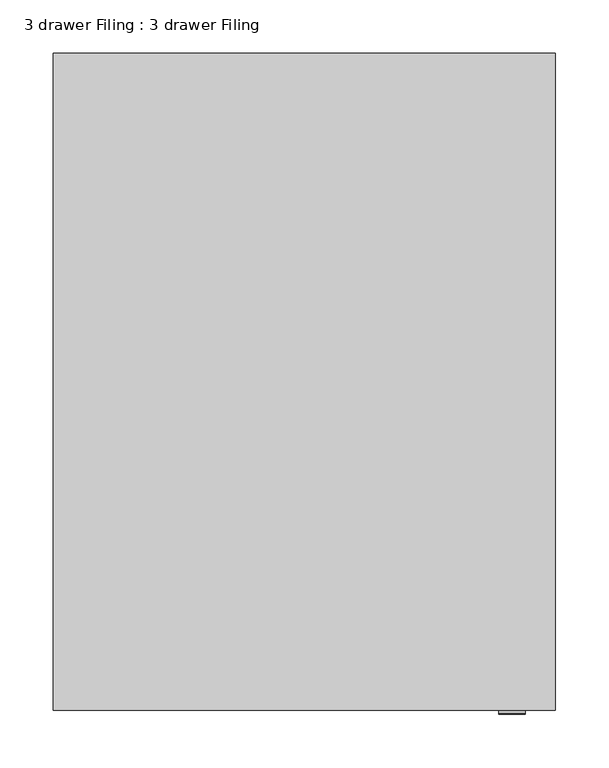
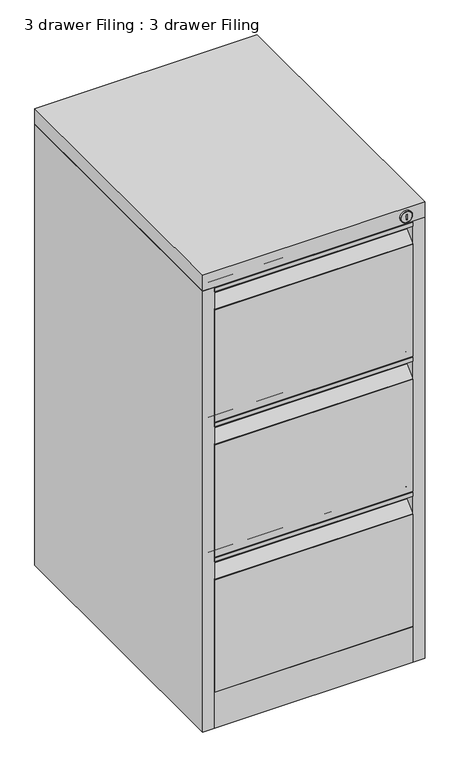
"""IFC4 building model written with IfcOpenShell, lengths in millimetres: furniture geometry, 3 drawer Filing : 3 drawer Filing."""

from ifc_helpers import new_model, si_unit, point, frame, frame_2d, origin, origin_with_axes, place, context, project, spatial, polyline, circle_curve, ellipse_curve, trimmed, segment, composite_curve, outline, extrude, source, transform, mapped, element, save
from ifc_brep_helpers import plane_surface, cylinder_surface, revolved_surface, advanced_brep


def furniture_3_drawer_filing_3_drawer_filing_0942cf7e(model_context):
    return source(origin(), model_context, "Body", "SolidModel", [
        extrude(outline(composite_curve([segment(polyline([(-282.5, 984.6666667), (-282.5, 956.0400279)]), True, "CONTINUOUS"), segment(trimmed(circle_curve(frame_2d((-285.6021897, 956.0400279)), 3.1021897), [point((-282.5, 956.0400279))], [point((-283.5167258, 953.7434171))], False, "CARTESIAN"), True, "CONTINUOUS"), segment(polyline([(-283.5167258, 953.7434171), (-304.8097129, 934.4080756)]), True, "CONTINUOUS"), segment(trimmed(circle_curve(frame_2d((-303.3938261, 932.8488345)), 2.1061739), [point((-304.8097129, 934.4080756))], [point((-305.5, 932.8488345))], True, "CARTESIAN"), True, "CONTINUOUS"), segment(polyline([(-305.5, 932.8488345), (-305.5, 685.3333333), (-282.5, 685.3333333), (-282.5, 683.3333333), (-307.5, 683.3333333), (-307.5, 933.8605616)]), True, "CONTINUOUS"), segment(trimmed(circle_curve(frame_2d((-305.6791457, 933.8605616)), 1.8208543), [point((-307.5, 933.8605616))], [point((-306.9032249, 935.2085752))], False, "CARTESIAN"), True, "CONTINUOUS"), segment(polyline([(-306.9032249, 935.2085752), (-285.0662702, 955.0378726)]), True, "CONTINUOUS"), segment(trimmed(circle_curve(frame_2d((-286.227779, 956.3169808)), 1.727779), [point((-285.0662702, 955.0378726))], [point((-284.5, 956.3169808))], True, "CARTESIAN"), True, "CONTINUOUS"), segment(polyline([(-284.5, 956.3169808), (-284.5, 980.6291286)]), True, "CONTINUOUS"), segment(trimmed(circle_curve(frame_2d((-286.5375381, 980.6291286)), 2.0375381), [point((-284.5, 980.6291286))], [point((-286.5375381, 982.6666667))], True, "CARTESIAN"), True, "CONTINUOUS"), segment(polyline([(-286.5375381, 982.6666667), (-305.5, 982.6666667), (-305.5, 974.6666667), (-307.5, 974.6666667), (-307.5, 982.8061215)]), True, "CONTINUOUS"), segment(trimmed(circle_curve(frame_2d((-305.6394549, 982.8061215)), 1.8605451), [point((-307.5, 982.8061215))], [point((-305.6394549, 984.6666667))], False, "CARTESIAN"), True, "CONTINUOUS"), segment(polyline([(-305.6394549, 984.6666667), (-282.5, 984.6666667)]), True, "CONTINUOUS")], self_intersect=False)), frame((-210.0, 0.0, 0.0), z_axis=(1.0, 0.0, 0.0), x_axis=(0.0, 1.0, 0.0)), (0.0, 0.0, 1.0), 420.0),
        extrude(outline(composite_curve([segment(polyline([(-282.5, 683.0), (-282.5, 654.3733613)]), True, "CONTINUOUS"), segment(trimmed(circle_curve(frame_2d((-285.6021897, 654.3733613)), 3.1021897), [point((-282.5, 654.3733613))], [point((-283.5167258, 652.0767504))], False, "CARTESIAN"), True, "CONTINUOUS"), segment(polyline([(-283.5167258, 652.0767504), (-304.8097129, 632.741409)]), True, "CONTINUOUS"), segment(trimmed(circle_curve(frame_2d((-303.3938261, 631.1821678)), 2.1061739), [point((-304.8097129, 632.741409))], [point((-305.5, 631.1821678))], True, "CARTESIAN"), True, "CONTINUOUS"), segment(polyline([(-305.5, 631.1821678), (-305.5, 383.6666667), (-282.5, 383.6666667), (-282.5, 381.6666667), (-307.5, 381.6666667), (-307.5, 632.193895)]), True, "CONTINUOUS"), segment(trimmed(circle_curve(frame_2d((-305.6791457, 632.193895)), 1.8208543), [point((-307.5, 632.193895))], [point((-306.9032249, 633.5419085))], False, "CARTESIAN"), True, "CONTINUOUS"), segment(polyline([(-306.9032249, 633.5419085), (-285.0662702, 653.371206)]), True, "CONTINUOUS"), segment(trimmed(circle_curve(frame_2d((-286.227779, 654.6503141)), 1.727779), [point((-285.0662702, 653.371206))], [point((-284.5, 654.6503141))], True, "CARTESIAN"), True, "CONTINUOUS"), segment(polyline([(-284.5, 654.6503141), (-284.5, 678.9624619)]), True, "CONTINUOUS"), segment(trimmed(circle_curve(frame_2d((-286.5375381, 678.9624619)), 2.0375381), [point((-284.5, 678.9624619))], [point((-286.5375381, 681.0))], True, "CARTESIAN"), True, "CONTINUOUS"), segment(polyline([(-286.5375381, 681.0), (-305.5, 681.0), (-305.5, 673.0), (-307.5, 673.0), (-307.5, 681.1394549)]), True, "CONTINUOUS"), segment(trimmed(circle_curve(frame_2d((-305.6394549, 681.1394549)), 1.8605451), [point((-307.5, 681.1394549))], [point((-305.6394549, 683.0))], False, "CARTESIAN"), True, "CONTINUOUS"), segment(polyline([(-305.6394549, 683.0), (-282.5, 683.0)]), True, "CONTINUOUS")], self_intersect=False)), frame((-210.0, 0.0, 0.0), z_axis=(1.0, 0.0, 0.0), x_axis=(0.0, 1.0, 0.0)), (0.0, 0.0, 1.0), 420.0),
        extrude(outline(composite_curve([segment(polyline([(-282.5, 381.3333333), (-282.5, 352.7066946)]), True, "CONTINUOUS"), segment(trimmed(circle_curve(frame_2d((-285.6021897, 352.7066946)), 3.1021897), [point((-282.5, 352.7066946))], [point((-283.5167258, 350.4100838))], False, "CARTESIAN"), True, "CONTINUOUS"), segment(polyline([(-283.5167258, 350.4100838), (-304.8097129, 331.0747423)]), True, "CONTINUOUS"), segment(trimmed(circle_curve(frame_2d((-303.3938261, 329.5155012)), 2.1061739), [point((-304.8097129, 331.0747423))], [point((-305.5, 329.5155012))], True, "CARTESIAN"), True, "CONTINUOUS"), segment(polyline([(-305.5, 329.5155012), (-305.5, 82.0), (-282.5, 82.0), (-282.5, 80.0), (-307.5, 80.0), (-307.5, 330.5272283)]), True, "CONTINUOUS"), segment(trimmed(circle_curve(frame_2d((-305.6791457, 330.5272283)), 1.8208543), [point((-307.5, 330.5272283))], [point((-306.9032249, 331.8752418))], False, "CARTESIAN"), True, "CONTINUOUS"), segment(polyline([(-306.9032249, 331.8752418), (-285.0662702, 351.7045393)]), True, "CONTINUOUS"), segment(trimmed(circle_curve(frame_2d((-286.227779, 352.9836474)), 1.727779), [point((-285.0662702, 351.7045393))], [point((-284.5, 352.9836474))], True, "CARTESIAN"), True, "CONTINUOUS"), segment(polyline([(-284.5, 352.9836474), (-284.5, 377.2957952)]), True, "CONTINUOUS"), segment(trimmed(circle_curve(frame_2d((-286.5375381, 377.2957952)), 2.0375381), [point((-284.5, 377.2957952))], [point((-286.5375381, 379.3333333))], True, "CARTESIAN"), True, "CONTINUOUS"), segment(polyline([(-286.5375381, 379.3333333), (-305.5, 379.3333333), (-305.5, 371.3333333), (-307.5, 371.3333333), (-307.5, 379.4727882)]), True, "CONTINUOUS"), segment(trimmed(circle_curve(frame_2d((-305.6394549, 379.4727882)), 1.8605451), [point((-307.5, 379.4727882))], [point((-305.6394549, 381.3333333))], False, "CARTESIAN"), True, "CONTINUOUS"), segment(polyline([(-305.6394549, 381.3333333), (-282.5, 381.3333333)]), True, "CONTINUOUS")], self_intersect=False)), frame((-210.0, 0.0, 0.0), z_axis=(1.0, 0.0, 0.0), x_axis=(0.0, 1.0, 0.0)), (0.0, 0.0, 1.0), 420.0),
        extrude(outline(polyline([(195.5273848, -307.5), (193.5273848, -307.5), (193.5273848, -207.5), (195.5273848, -207.5), (195.5273848, -307.5)])), frame((0.0, 0.0, 996.6206655), z_axis=(0.0, 0.0, 1.0), x_axis=(1.0, 0.0, 0.0)), (0.0, 0.0, 1.0), 12.0),
        advanced_brep(
        [(182.9473365, -311.5, 1002.5526635), (206.0526635, -311.5, 1002.5526635), (195.5273848, -311.5, 1008.6206655), (195.5273848, -311.5, 996.6206655), (193.5273848, -311.5, 996.6206655), (193.5273848, -311.5, 1008.6206655), (181.9473365, -307.5, 1002.5526635), (207.0526635, -307.5, 1002.5526635), (195.5273848, -307.5, 1008.6206655), (193.5273848, -307.5, 1008.6206655), (193.5273848, -307.5, 996.6206655), (195.5273848, -307.5, 996.6206655), (207.0526635, -310.5, 1002.5526635), (181.9473365, -310.5, 1002.5526635)],
        [
            (0, 1, circle_curve(frame((194.5, -311.5, 1002.5526635), z_axis=(0.0, -1.0, 0.0), x_axis=(1.0, 0.0, 0.0)), 11.5526635)),
            (1, 0, circle_curve(frame((194.5, -311.5, 1002.5526635), z_axis=(0.0, -1.0, 0.0), x_axis=(-1.0, 0.0, 0.0)), 11.5526635)),
            (2, 3),
            (3, 4),
            (4, 5),
            (5, 2),
            (6, 7, circle_curve(frame((194.5, -307.5, 1002.5526635), z_axis=(0.0, 1.0, 0.0), x_axis=(1.0, 0.0, 0.0)), 12.5526635)),
            (7, 6, circle_curve(frame((194.5, -307.5, 1002.5526635), z_axis=(0.0, 1.0, 0.0), x_axis=(1.0, 0.0, 0.0)), 12.5526635)),
            (8, 9),
            (9, 10),
            (10, 11),
            (11, 8),
            (7, 12),
            (12, 13, circle_curve(frame((194.5, -310.5, 1002.5526635), z_axis=(0.0, 1.0, 0.0), x_axis=(1.0, 0.0, 0.0)), 12.5526635)),
            (13, 6),
            (13, 12, circle_curve(frame((194.5, -310.5, 1002.5526635), z_axis=(0.0, 1.0, 0.0), x_axis=(1.0, 0.0, 0.0)), 12.5526635)),
            (2, 8),
            (11, 3),
            (10, 4),
            (9, 5),
            (0, 13, circle_curve(frame((182.9473365, -310.5, 1002.5526635), z_axis=(0.0, 0.0, -1.0), x_axis=(-1.0, 0.0, 0.0)), 1.0)),
            (12, 1, circle_curve(frame((206.0526635, -310.5, 1002.5526635), z_axis=(0.0, 0.0, -1.0), x_axis=(1.0, 0.0, 0.0)), 1.0)),
        ],
        [
            plane_surface(frame((207.0526635, -311.5, 1002.5526635), z_axis=(0.0, -1.0, 0.0), x_axis=(0.0, 0.0, 1.0))),
            plane_surface(frame((207.0526635, -307.5, 1002.5526635), z_axis=(0.0, 1.0, 0.0), x_axis=(0.0, 0.0, -1.0))),
            cylinder_surface(frame((194.5, -307.5, 1002.5526635), z_axis=(0.0, -1.0, 0.0), x_axis=(1.0, 0.0, 0.0)), 12.5526635),
            plane_surface(frame((195.5273848, -311.5, 1008.6206655), z_axis=(-1.0, 0.0, 0.0), x_axis=(0.0, 1.0, 0.0))),
            plane_surface(frame((195.5273848, -311.5, 996.6206655), z_axis=(0.0, 0.0, 1.0), x_axis=(0.0, 1.0, 0.0))),
            plane_surface(frame((193.5273848, -311.5, 996.6206655), z_axis=(1.0, 0.0, 0.0), x_axis=(0.0, 1.0, 0.0))),
            plane_surface(frame((193.5273848, -311.5, 1008.6206655), z_axis=(0.0, 0.0, -1.0), x_axis=(0.0, 1.0, 0.0))),
            revolved_surface(trimmed(ellipse_curve(frame((206.0526635, -310.5, 1002.5526635), z_axis=(0.0, 0.0, 1.0), x_axis=(1.0, 0.0, 0.0)), 1.0, 1.0), [point((206.0526635, -311.5, 1002.5526635))], [point((207.0526635, -310.5, 1002.5526635))], True, "CARTESIAN"), (194.5, -311.5, 1002.5526635), (0.0, 1.0, 0.0)),
            revolved_surface(trimmed(ellipse_curve(frame((182.9473365, -310.5, 1002.5526635), z_axis=(0.0, 0.0, -1.0), x_axis=(-1.0, 0.0, 0.0)), 1.0, 1.0), [point((182.9473365, -311.5, 1002.5526635))], [point((181.9473365, -310.5, 1002.5526635))], True, "CARTESIAN"), (194.5, -311.5, 1002.5526635), (0.0, 1.0, 0.0)),
        ],
        [
            (0, [[1, 2], [3, 4, 5, 6]]),
            (1, [[7, 8], [9, 10, 11, 12]]),
            (2, [[-8, 13, 14, 15]]),
            (2, [[-7, -15, 16, -13]]),
            (3, [[-3, 17, -12, 18]]),
            (4, [[-4, -18, -11, 19]]),
            (5, [[-5, -19, -10, 20]]),
            (6, [[-6, -20, -9, -17]]),
            (7, [[21, -14, 22, -1]]),
            (8, [[-21, -2, -22, -16]]),
        ],
    ),
        extrude(outline(polyline([(209.5, -207.5), (209.5, -307.5), (-209.5107425, -307.5), (-209.5107425, -207.5), (209.5, -207.5)])), origin_with_axes(), (0.0, 0.0, 1.0), 80.0),
        extrude(outline(polyline([(210.0, -207.5), (-210.0, -207.5), (-210.0, 282.5), (210.0, 282.5), (210.0, -207.5)])), origin_with_axes(), (0.0, 0.0, 1.0), 1.0),
        extrude(outline(polyline([(-210.0, 307.5), (-210.0, -307.5), (-235.0, -307.5), (-235.0, 307.5), (-210.0, 307.5)])), origin_with_axes(), (0.0, 0.0, 1.0), 985.0),
        extrude(outline(polyline([(235.0, 307.5), (235.0, -307.5), (210.0, -307.5), (210.0, 307.5), (235.0, 307.5)])), origin_with_axes(), (0.0, 0.0, 1.0), 985.0),
        extrude(outline(polyline([(210.0, 307.5), (210.0, 282.5), (-210.0, 282.5), (-210.0, 307.5), (210.0, 307.5)])), origin_with_axes(), (0.0, 0.0, 1.0), 985.0),
        extrude(outline(polyline([(235.0, 307.5), (235.0, -307.5), (-235.0, -307.5), (-235.0, 307.5), (235.0, 307.5)])), frame((0.0, 0.0, 985.0), z_axis=(0.0, 0.0, 1.0), x_axis=(1.0, 0.0, 0.0)), (0.0, 0.0, 1.0), 35.0),
    ])


if __name__ == "__main__":
    model = new_model("IFC4")
    model_context = context("Model", 3, world=origin())
    ifc_project = project(units=[si_unit("LENGTHUNIT", "METRE", prefix="MILLI")], contexts=[model_context])
    site = spatial("IfcSite", under=ifc_project)
    building = spatial("IfcBuilding", under=site)
    placement = place(None, origin())
    furniture_3_drawer_filing_3_drawer_filing_shape = furniture_3_drawer_filing_3_drawer_filing_0942cf7e(model_context)
    element("IfcFurniture", 1, ObjectType="3 drawer Filing : 3 drawer Filing", at=placement, inside=building, context=model_context, shape_type="MappedRepresentation", body=[
        mapped(furniture_3_drawer_filing_3_drawer_filing_shape, transform((0.0, 0.0, 0.0), x_axis=(1.0, 0.0, 0.0), y_axis=(0.0, 1.0, 0.0), z_axis=(0.0, 0.0, 1.0))),
    ])
    save(model, "model.ifc")
